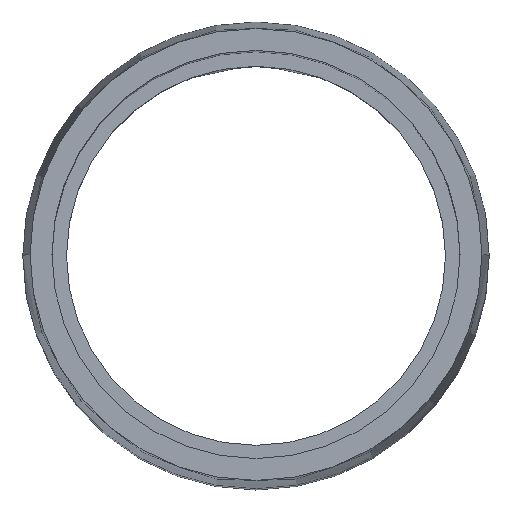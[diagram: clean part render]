
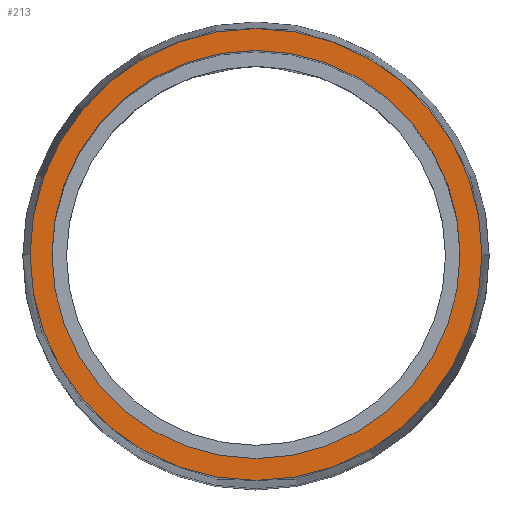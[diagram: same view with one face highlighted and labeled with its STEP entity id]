
A CAD part, top view. The second image highlights one B-rep face of the part: STEP entity #213.
In plain terms, the highlighted planar face has unit normal (0, 0, 1).
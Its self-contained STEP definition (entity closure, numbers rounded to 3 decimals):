
#14 = FACE_OUTER_BOUND ( 'NONE', #524, .T. ) ;
#32 = DIRECTION ( 'NONE',  ( 0., 0., 1. ) ) ;
#34 = DIRECTION ( 'NONE',  ( 0., 0., 1. ) ) ;
#47 = ORIENTED_EDGE ( 'NONE', *, *, #176, .T. ) ;
#50 = DIRECTION ( 'NONE',  ( 1., 0., 0. ) ) ;
#52 = EDGE_CURVE ( 'NONE', #56, #205, #298, .T. ) ;
#56 = VERTEX_POINT ( 'NONE', #303 ) ;
#58 = FACE_BOUND ( 'NONE', #160, .T. ) ;
#73 = DIRECTION ( 'NONE',  ( 1., 0., 0. ) ) ;
#87 = ORIENTED_EDGE ( 'NONE', *, *, #530, .T. ) ;
#96 = DIRECTION ( 'NONE',  ( 0., 0., 1. ) ) ;
#115 = DIRECTION ( 'NONE',  ( 0., 0., 1. ) ) ;
#127 = CARTESIAN_POINT ( 'NONE',  ( 0., 0., 60. ) ) ;
#147 = CIRCLE ( 'NONE', #594, 15.5 ) ;
#160 = EDGE_LOOP ( 'NONE', ( #385, #197 ) ) ;
#166 = EDGE_CURVE ( 'NONE', #205, #56, #375, .T. ) ;
#173 = CARTESIAN_POINT ( 'NONE',  ( 0., 0., 60. ) ) ;
#176 = EDGE_CURVE ( 'NONE', #469, #559, #147, .T. ) ;
#178 = DIRECTION ( 'NONE',  ( 1., 0., 0. ) ) ;
#197 = ORIENTED_EDGE ( 'NONE', *, *, #52, .F. ) ;
#205 = VERTEX_POINT ( 'NONE', #358 ) ;
#212 = CARTESIAN_POINT ( 'NONE',  ( 0., 0., 60. ) ) ;
#213 = ADVANCED_FACE ( 'NONE', ( #58, #14 ), #494, .T. ) ;
#234 = CARTESIAN_POINT ( 'NONE',  ( 15.5, 0., 60. ) ) ;
#260 = AXIS2_PLACEMENT_3D ( 'NONE', #360, #590, #178 ) ;
#272 = DIRECTION ( 'NONE',  ( 1., 0., 0. ) ) ;
#278 = CARTESIAN_POINT ( 'NONE',  ( -15.5, 0., 60. ) ) ;
#298 = CIRCLE ( 'NONE', #330, 14. ) ;
#301 = DIRECTION ( 'NONE',  ( 1., 0., 0. ) ) ;
#303 = CARTESIAN_POINT ( 'NONE',  ( -14., 0., 60. ) ) ;
#330 = AXIS2_PLACEMENT_3D ( 'NONE', #212, #115, #301 ) ;
#358 = CARTESIAN_POINT ( 'NONE',  ( 14., 0., 60. ) ) ;
#360 = CARTESIAN_POINT ( 'NONE',  ( 0., 0., 60. ) ) ;
#375 = CIRCLE ( 'NONE', #260, 14. ) ;
#385 = ORIENTED_EDGE ( 'NONE', *, *, #166, .F. ) ;
#406 = CIRCLE ( 'NONE', #566, 15.5 ) ;
#451 = CARTESIAN_POINT ( 'NONE',  ( 0., 0., 60. ) ) ;
#469 = VERTEX_POINT ( 'NONE', #234 ) ;
#481 = AXIS2_PLACEMENT_3D ( 'NONE', #127, #34, #73 ) ;
#494 = PLANE ( 'NONE',  #481 ) ;
#524 = EDGE_LOOP ( 'NONE', ( #87, #47 ) ) ;
#530 = EDGE_CURVE ( 'NONE', #559, #469, #406, .T. ) ;
#559 = VERTEX_POINT ( 'NONE', #278 ) ;
#566 = AXIS2_PLACEMENT_3D ( 'NONE', #451, #96, #50 ) ;
#590 = DIRECTION ( 'NONE',  ( 0., 0., 1. ) ) ;
#594 = AXIS2_PLACEMENT_3D ( 'NONE', #173, #32, #272 ) ;
